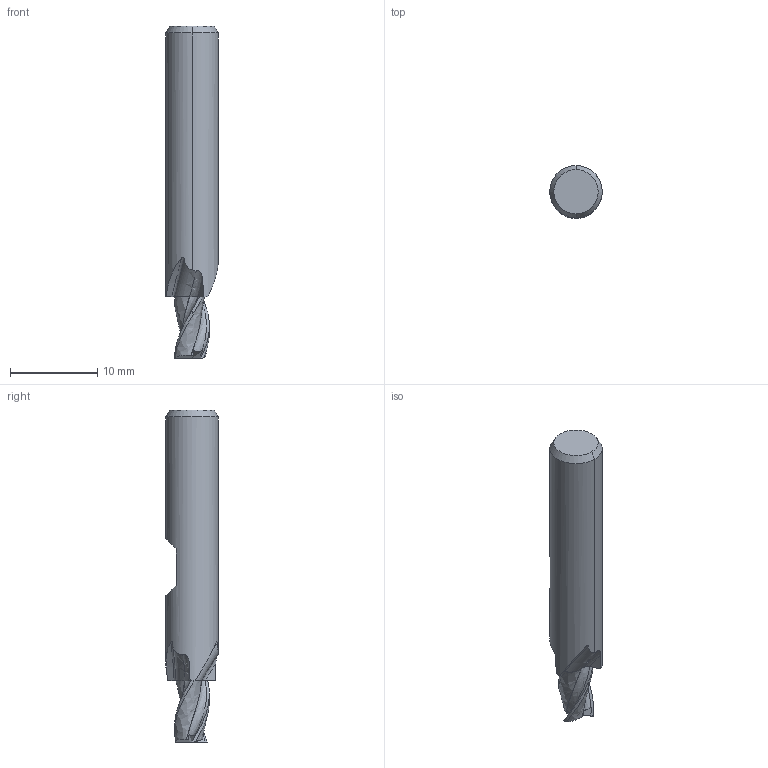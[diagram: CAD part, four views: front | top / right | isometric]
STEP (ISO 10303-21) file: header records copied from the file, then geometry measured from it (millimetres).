
FILE_DESCRIPTION(('no description'),'unknown implementation level');
FILE_NAME('solidhSuGWUWDOnFLQXADgqua6s4_gEw_1.STP',' ',('CIMSOURCE GmbH'),('CADClick - KiM GmbH - www.kimweb.de'),'unknown preprocess','ACIS','unknown authorization');
FILE_SCHEMA(('automotive_design'));
Length unit declared in the file: millimetre
Products named in the file (2): NOCUT; CUT
Bounding box: 6 x 6 x 38 mm (x, y, z)
Volume: 861.8 mm3; surface area: 721.3 mm2
Topology: 2 solids, 2 shells, 69 faces, 193 edges, 128 vertices
Faces by surface type: plane 26, revolution 15, bspline 12, cylinder 9, cone 7
Entity records: 7097 total; most frequent: CARTESIAN_POINT 3289, STYLED_ITEM 392, PRESENTATION_STYLE_ASSIGNMENT 392, COLOUR_RGB 392, ORIENTED_EDGE 386, DIRECTION 256, EDGE_CURVE 193, CURVE_STYLE 193
